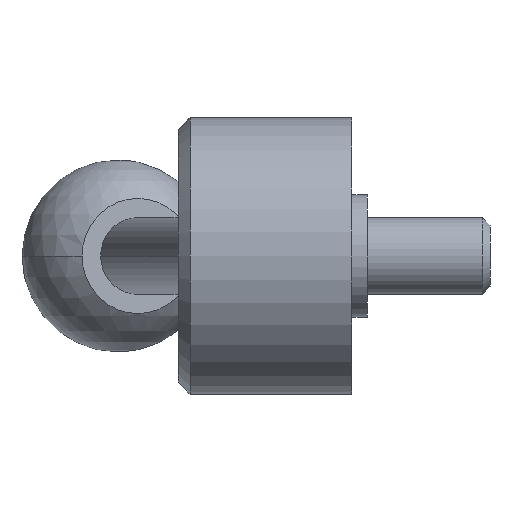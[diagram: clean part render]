
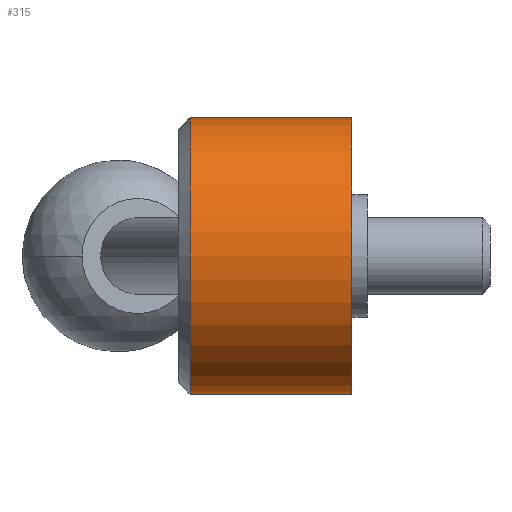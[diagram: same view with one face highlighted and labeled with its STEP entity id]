
A CAD part, left-side view. The second image highlights one B-rep face of the part: STEP entity #315.
In plain terms, the highlighted cylindrical face has radius 18 mm (diameter 36 mm), a partial arc.
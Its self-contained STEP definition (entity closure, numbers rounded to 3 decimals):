
#4 = CYLINDRICAL_SURFACE ( 'NONE', #219, 18. ) ;
#16 = CARTESIAN_POINT ( 'NONE',  ( 0., 21.1, 18. ) ) ;
#42 = ORIENTED_EDGE ( 'NONE', *, *, #584, .F. ) ;
#58 = VECTOR ( 'NONE', #215, 1000. ) ;
#73 = CARTESIAN_POINT ( 'NONE',  ( 0., 21.1, 0. ) ) ;
#78 = DIRECTION ( 'NONE',  ( 0., 0., 1. ) ) ;
#81 = DIRECTION ( 'NONE',  ( 0., -1., 0. ) ) ;
#129 = EDGE_CURVE ( 'NONE', #313, #793, #371, .T. ) ;
#183 = EDGE_CURVE ( 'NONE', #590, #450, #634, .T. ) ;
#201 = LINE ( 'NONE', #343, #58 ) ;
#212 = CARTESIAN_POINT ( 'NONE',  ( 0., 0., 0. ) ) ;
#215 = DIRECTION ( 'NONE',  ( 0., -1., 0. ) ) ;
#219 = AXIS2_PLACEMENT_3D ( 'NONE', #212, #489, #629 ) ;
#231 = CARTESIAN_POINT ( 'NONE',  ( 0., 0., -18. ) ) ;
#243 = ORIENTED_EDGE ( 'NONE', *, *, #666, .T. ) ;
#313 = VERTEX_POINT ( 'NONE', #822 ) ;
#315 = ADVANCED_FACE ( 'NONE', ( #349 ), #4, .T. ) ;
#343 = CARTESIAN_POINT ( 'NONE',  ( 0., 0., 18. ) ) ;
#349 = FACE_OUTER_BOUND ( 'NONE', #350, .T. ) ;
#350 = EDGE_LOOP ( 'NONE', ( #42, #537, #243, #641 ) ) ;
#371 = CIRCLE ( 'NONE', #659, 18. ) ;
#405 = AXIS2_PLACEMENT_3D ( 'NONE', #73, #81, #78 ) ;
#445 = DIRECTION ( 'NONE',  ( 0., 0., -1. ) ) ;
#450 = VERTEX_POINT ( 'NONE', #455 ) ;
#455 = CARTESIAN_POINT ( 'NONE',  ( 0., 21.1, -18. ) ) ;
#489 = DIRECTION ( 'NONE',  ( 0., -1., 0. ) ) ;
#502 = CARTESIAN_POINT ( 'NONE',  ( 0., 0., 0. ) ) ;
#537 = ORIENTED_EDGE ( 'NONE', *, *, #183, .T. ) ;
#539 = LINE ( 'NONE', #805, #748 ) ;
#584 = EDGE_CURVE ( 'NONE', #590, #313, #201, .T. ) ;
#590 = VERTEX_POINT ( 'NONE', #16 ) ;
#629 = DIRECTION ( 'NONE',  ( 0., 0., -1. ) ) ;
#634 = CIRCLE ( 'NONE', #405, 18. ) ;
#641 = ORIENTED_EDGE ( 'NONE', *, *, #129, .F. ) ;
#659 = AXIS2_PLACEMENT_3D ( 'NONE', #502, #778, #445 ) ;
#666 = EDGE_CURVE ( 'NONE', #450, #793, #539, .T. ) ;
#738 = DIRECTION ( 'NONE',  ( 0., -1., 0. ) ) ;
#748 = VECTOR ( 'NONE', #738, 1000. ) ;
#778 = DIRECTION ( 'NONE',  ( 0., -1., 0. ) ) ;
#793 = VERTEX_POINT ( 'NONE', #231 ) ;
#805 = CARTESIAN_POINT ( 'NONE',  ( 0., 0., -18. ) ) ;
#822 = CARTESIAN_POINT ( 'NONE',  ( 0., 0., 18. ) ) ;
